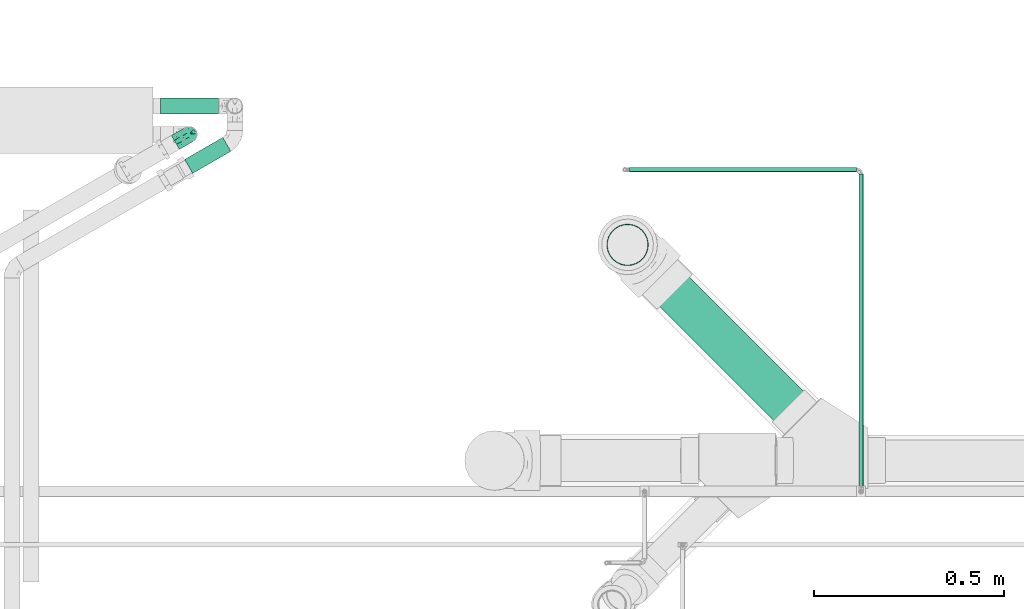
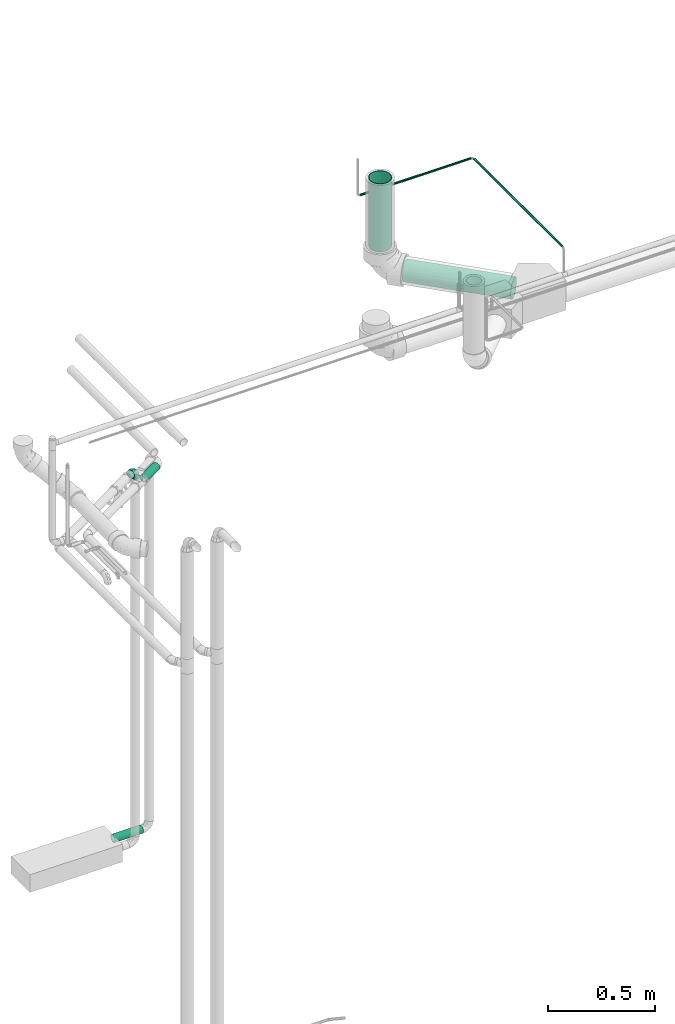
# One storey, part 43 of 108: 6 flow segments, 1 flow fitting.
"""IFC2X3 building model written with IfcOpenShell, lengths in millimetres."""

from ifc_helpers import new_model, entity, si_unit, converted_unit, derived_unit, direction, frame, origin_with_axes, origin_2d_with_axis, place, context, subcontext, project, spatial, hollow_circle, extrude, open_shell, surface_model, source, transform, mapped, type_object, element, save


model = new_model("IFC2X3")

# Units and contexts
model_context = context("Model", 3, precision=0.01, world=frame((0.0, 4.29681676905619e-09, 0.0)), true_north=direction((4.01073788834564e-13, 1.0)))
plan_context = context("Plan", 3, precision=0.01, world=frame((0.0, 4.29681676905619e-09, 0.0)), true_north=direction((4.01073788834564e-13, 1.0)))
body_context = subcontext(model_context, "Body", "Model", "MODEL_VIEW")
ifc_project = project(units=[converted_unit("PLANEANGLEUNIT", "DEGREE", entity("IfcPositiveLengthMeasure", 0.0174532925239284), si_unit("PLANEANGLEUNIT", "RADIAN"), dimensions=[0, 0, 0, 0, 0, 0, 0]), si_unit("AREAUNIT", "SQUARE_METRE"), si_unit("LENGTHUNIT", "METRE", prefix="MILLI"), si_unit("MASSUNIT", "GRAM", prefix="KILO"), si_unit("POWERUNIT", "WATT"), si_unit("PRESSUREUNIT", "PASCAL", prefix="KILO"), si_unit("FORCEUNIT", "NEWTON", prefix="KILO"), si_unit("ELECTRICVOLTAGEUNIT", "VOLT"), si_unit("ELECTRICCURRENTUNIT", "AMPERE"), si_unit("THERMODYNAMICTEMPERATUREUNIT", "DEGREE_CELSIUS"), si_unit("TIMEUNIT", "SECOND"), si_unit("VOLUMEUNIT", "CUBIC_METRE"), derived_unit("LINEARVELOCITYUNIT", [(si_unit("LENGTHUNIT", "METRE"), 1), (si_unit("TIMEUNIT", "SECOND"), -1)]), derived_unit("VOLUMETRICFLOWRATEUNIT", [(si_unit("VOLUMEUNIT", "CUBIC_METRE"), 1), (si_unit("TIMEUNIT", "SECOND"), -1)]), derived_unit("THERMALTRANSMITTANCEUNIT", [(si_unit("POWERUNIT", "WATT"), 1), (si_unit("THERMODYNAMICTEMPERATUREUNIT", "KELVIN"), -1), (si_unit("AREAUNIT", "SQUARE_METRE"), -1)]), derived_unit("SOUNDPRESSUREUNIT", [(si_unit("PRESSUREUNIT", "PASCAL"), 1)])], contexts=[model_context, plan_context])

# Site, building, storey
site_placement = place(None, frame((0.0, -4.29681676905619e-09, 0.0), z_axis=(0.0, 0.0, 1.0), x_axis=(1.0, 0.0, 0.0)))
site = spatial("IfcSite", under=ifc_project, at=site_placement, CompositionType="ELEMENT")
building_placement = place(site_placement, frame((0.0, 4.29681676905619e-09, 0.0), z_axis=(0.0, 0.0, 1.0), x_axis=(1.0, 0.0, 0.0)))
building = spatial("IfcBuilding", under=site, at=building_placement, Name="mc-building", CompositionType="ELEMENT")
storey_placement = place(building_placement, frame((0.0, 0.0, 210200.0), z_axis=(0.0, 0.0, 1.0), x_axis=(1.0, 0.0, 0.0)))
storey = spatial("IfcBuildingStorey", under=building, at=storey_placement, Name="Nivå F - 0,7 m", CompositionType="ELEMENT", Elevation=210200.0)

# Flow fitting
pipe_fitting_type = type_object("IfcPipeFittingType", Name="magi_pipe_fe_elbow_short_001", PredefinedType="BEND")
shared_shape_1 = source(origin_with_axes(), body_context, "Body", "SurfaceModel", [
    surface_model("IfcShellBasedSurfaceModel", [(-42.4, 10.6, -18.35974), (-42.4, 5.48696, -20.47763), (-42.4, 0.0, -21.2), (-42.4, 14.99066, -14.99066), (-42.4, 20.47763, -5.48696), (-42.4, 18.35974, -10.6), (-42.4, -14.99066, 14.99066), (-42.4, -21.2, 0.0), (-42.4, -10.6, -18.35974), (-42.4, -14.99066, -14.99066), (-42.4, -5.48696, -20.47763), (-42.4, -18.35974, -10.6), (-42.4, -20.47763, -5.48696), (-42.4, 10.6, 18.35974), (-42.4, 20.47763, 5.48696), (-42.4, 18.35974, 10.6), (-42.4, 14.99066, 14.99066), (-42.4, 5.48696, 20.47763), (-42.4, 0.0, 21.2), (-42.4, -20.47763, 5.48696), (-42.4, -18.35974, 10.6), (-42.4, -10.6, 18.35974), (-42.4, -5.48696, 20.47763), (-42.4, 21.2, 0.0), (0.0, 42.4, -21.2), (-5.48696, 42.4, -20.47763), (-10.6, 42.4, -18.35974), (-14.99066, 42.4, -14.99066), (-18.35974, 42.4, -10.6), (-20.47763, 42.4, -5.48696), (21.2, 42.4, 0.0), (5.48696, 42.4, -20.47763), (14.99066, 42.4, -14.99066), (10.6, 42.4, -18.35974), (18.35974, 42.4, -10.6), (20.47763, 42.4, -5.48696), (14.99066, 42.4, 14.99066), (-20.47763, 42.4, 5.48696), (-10.6, 42.4, 18.35974), (-14.99066, 42.4, 14.99066), (-18.35974, 42.4, 10.6), (-5.48696, 42.4, 20.47763), (0.0, 42.4, 21.2), (18.35974, 42.4, 10.6), (20.47763, 42.4, 5.48696), (5.48696, 42.4, 20.47763), (10.6, 42.4, 18.35974), (-21.2, 42.4, 0.0), (-31.10239, -16.47009, 11.90111), (-27.83957, -12.231, 15.79732), (-30.23067, -18.77937, 0.0), (-18.74048, -13.50096, 10.69998), (-28.17586, -18.50359, 6.61185), (18.50359, 28.17586, 6.61185), (14.95929, 16.60735, 5.43468), (16.35874, 18.06133, 0.0), (-20.72313, 33.83635, 9.21426), (-17.70981, 33.00599, 13.92769), (-31.16033, -8.01664, 19.07348), (-32.38682, -2.80842, 20.83743), (-29.68688, 3.24967, 21.16387), (-7.74467, -9.46536, 0.0), (-16.60735, -14.95929, 5.43468), (-18.06133, -16.35874, 0.0), (-16.37932, -5.14532, 17.61254), (-21.10659, -0.19025, 20.54817), (-1.82445, -3.58377, 9.55223), (-0.35533, 0.43745, 12.66367), (-7.20655, -5.07682, 13.06146), (-33.14056, 17.6728, 13.91288), (-7.36799, 20.84806, 21.16196), (-15.70315, 15.70315, 20.68489), (-12.62356, 9.26422, 21.0908), (-36.67879, 12.83836, 17.27427), (-7.91358, 36.5686, 19.85759), (-2.90555, 31.71221, 21.14793), (-33.84689, 20.71971, 9.21285), (-33.51649, 22.58113, 4.66115), (-26.3226, 26.3226, 7.92474), (-32.67995, 8.31454, 20.02643), (-5.53379, 14.19921, 20.81623), (-10.53385, 3.88918, 19.79653), (-2.16577, 11.45378, 19.48254), (-3.78693, 3.78693, 17.3328), (12.231, 27.83957, 15.79732), (13.50096, 18.74047, 10.69998), (16.47009, 31.10239, 11.90111), (-22.53806, 14.38475, 19.60876), (-23.29615, 9.08095, 20.82061), (2.80842, 32.38682, 20.83743), (8.01664, 31.16033, 19.07348), (5.14532, 16.37932, 17.61254), (18.77937, 30.23067, 0.0), (-20.80278, 5.19491, 21.19095), (-19.62579, 22.38752, 17.42006), (-29.19336, 14.39093, 17.85259), (-22.31569, 34.20044, 4.54807), (-26.56962, 27.80621, 3.73106), (9.67657, 17.17133, 14.49993), (-24.04026, 31.8, 0.0), (-9.16861, 28.72652, 20.19004), (-12.09761, 21.9456, 20.37969), (-15.36991, 27.40112, 17.818), (-16.88976, 20.52477, 19.2896), (-12.95169, 35.54896, 17.36222), (-17.17133, -9.67657, 14.49993), (-21.98655, 28.10245, 11.99898), (-22.34699, 23.67592, 15.01692), (-27.22822, 22.77969, 11.82161), (0.19025, 21.10658, 20.54817), (4.8276, 7.36347, 13.42842), (-10.06209, -9.46364, 9.95114), (1.25876, -2.7536, 5.73797), (6.43781, 3.77591, 7.40371), (6.57528, 2.20066, 3.17705), (10.91934, 8.84313, 5.00748), (10.64415, 10.99764, 8.89767), (-31.8, 24.04026, 0.0), (-5.71381, -8.43063, 6.15529), (2.57199, -2.57199, 0.0), (9.46536, 7.74467, 0.0), (-17.17133, -9.67657, -14.49993), (-27.83957, -12.231, -15.79732), (-16.37932, -5.14532, -17.61254), (-18.74048, -13.50096, -10.69998), (-33.00599, 17.70981, -13.92769), (-35.54896, 12.95169, -17.36222), (-34.20044, 22.31569, -4.54807), (-28.17586, -18.50359, -6.61185), (-26.3226, 26.3226, -7.92474), (-33.83635, 20.72313, -9.21426), (-16.60735, -14.95929, -5.43468), (-20.52477, 16.88976, -19.2896), (-21.9456, 12.0976, -20.37969), (-27.40112, 15.36991, -17.818), (-12.83836, 36.67879, -17.27427), (-17.6728, 33.14056, -13.91288), (8.01664, 31.16033, -19.07348), (5.14532, 16.37932, -17.61254), (0.19025, 21.10658, -20.54817), (-36.5686, 7.91358, -19.85759), (-31.10239, -16.47009, -11.90111), (-31.16033, -8.01664, -19.07348), (-14.38475, 22.53806, -19.60876), (-8.31454, 32.67995, -20.02643), (-9.08095, 23.29615, -20.82061), (-32.38682, -2.80842, -20.83743), (-20.84806, 7.36799, -21.16196), (-15.70315, 15.70314, -20.68489), (-9.26422, 12.62356, -21.0908), (-31.71221, 2.90555, -21.14793), (-22.58113, 33.51649, -4.66115), (-20.71971, 33.84689, -9.21285), (-28.72652, 9.16861, -20.19004), (-27.80621, 26.56962, -3.73106), (-5.19491, 20.80278, -21.19095), (-22.38752, 19.62579, -17.42006), (-14.39093, 29.19336, -17.85259), (2.80842, 32.38682, -20.83743), (-3.24967, 29.68688, -21.16387), (16.47009, 31.10239, -11.90111), (12.231, 27.83957, -15.79732), (6.57528, 2.20067, -3.17705), (10.91934, 8.84313, -5.00749), (-14.19921, 5.53379, -20.81623), (-3.88918, 10.53385, -19.79653), (-11.45378, 2.16577, -19.48254), (1.25876, -2.7536, -5.73797), (-5.71381, -8.43063, -6.15529), (-1.82445, -3.58377, -9.55223), (13.50096, 18.74048, -10.69998), (18.50359, 28.17586, -6.61185), (14.95929, 16.60735, -5.43468), (-28.10245, 21.98655, -11.99898), (9.67657, 17.17133, -14.49993), (10.64415, 10.99764, -8.89767), (4.8276, 7.36347, -13.42842), (-23.67592, 22.34699, -15.01692), (-22.77969, 27.22822, -11.82161), (-21.10658, -0.19025, -20.54817), (-3.78693, 3.78693, -17.3328), (-7.20655, -5.07682, -13.06146), (-10.06209, -9.46364, -9.95113), (-0.35533, 0.43745, -12.66367), (6.43781, 3.77591, -7.40371)], [open_shell([[[0, 1, 2]], [[3, 0, 2]], [[4, 5, 3]], [[2, 4, 3]], [[6, 2, 7]], [[8, 9, 10]], [[11, 10, 9]], [[12, 7, 11]], [[2, 10, 11]], [[11, 7, 2]], [[6, 4, 2]], [[13, 14, 4]], [[15, 14, 16]], [[4, 6, 13]], [[16, 14, 13]], [[17, 13, 18]], [[19, 20, 7]], [[7, 20, 6]], [[21, 22, 6]], [[18, 6, 22]], [[6, 18, 13]], [[23, 4, 14]], [[24, 25, 26]], [[24, 26, 27]], [[27, 28, 29]], [[27, 29, 24]], [[24, 29, 30]], [[31, 32, 33]], [[31, 24, 32]], [[34, 30, 35]], [[32, 24, 34]], [[24, 30, 34]], [[29, 36, 30]], [[29, 37, 38]], [[39, 37, 40]], [[36, 29, 38]], [[38, 37, 39]], [[41, 42, 38]], [[30, 43, 44]], [[36, 43, 30]], [[36, 45, 46]], [[45, 36, 42]], [[38, 42, 36]], [[37, 29, 47]], [[6, 48, 49]], [[19, 7, 50]], [[51, 48, 52]], [[53, 54, 55]], [[48, 6, 20]], [[19, 52, 20]], [[40, 56, 57]], [[49, 21, 6]], [[49, 58, 21]], [[18, 59, 60]], [[61, 62, 63]], [[58, 64, 65]], [[66, 67, 68]], [[15, 16, 69]], [[70, 71, 72]], [[13, 73, 16]], [[22, 59, 18]], [[41, 74, 75]], [[18, 60, 17]], [[15, 69, 76]], [[16, 73, 69]], [[23, 14, 77]], [[14, 15, 76]], [[77, 76, 78]], [[17, 79, 13]], [[80, 81, 82]], [[68, 83, 64]], [[84, 36, 46]], [[85, 86, 84]], [[87, 79, 88]], [[21, 58, 22]], [[42, 89, 45]], [[53, 44, 43]], [[42, 41, 75]], [[84, 90, 91]], [[43, 86, 53]], [[92, 44, 53]], [[86, 43, 36]], [[90, 46, 45]], [[53, 55, 92]], [[88, 93, 72]], [[54, 53, 85]], [[87, 94, 95]], [[78, 96, 97]], [[98, 84, 91]], [[99, 96, 47]], [[79, 17, 60]], [[96, 78, 56]], [[62, 52, 63]], [[57, 39, 40]], [[100, 70, 75]], [[101, 102, 103]], [[19, 50, 52]], [[104, 38, 39]], [[74, 41, 38]], [[57, 102, 104]], [[105, 64, 49]], [[90, 84, 46]], [[40, 37, 56]], [[56, 106, 57]], [[102, 57, 107]], [[95, 107, 69]], [[76, 108, 78]], [[100, 101, 70]], [[89, 75, 109]], [[64, 58, 49]], [[63, 52, 50]], [[59, 58, 65]], [[105, 49, 51]], [[64, 83, 81]], [[89, 90, 45]], [[30, 44, 92]], [[109, 82, 91]], [[109, 91, 90]], [[91, 83, 110]], [[111, 68, 105]], [[66, 68, 111]], [[62, 51, 52]], [[66, 112, 113]], [[114, 115, 113]], [[98, 85, 84]], [[52, 48, 20]], [[49, 48, 51]], [[84, 86, 36]], [[53, 86, 85]], [[88, 79, 60]], [[73, 79, 95]], [[96, 56, 37]], [[78, 108, 106]], [[87, 103, 94]], [[100, 74, 104]], [[108, 69, 107]], [[78, 97, 77]], [[88, 72, 71]], [[109, 75, 70]], [[81, 72, 65]], [[70, 72, 80]], [[75, 89, 42]], [[90, 89, 109]], [[58, 59, 22]], [[60, 59, 65]], [[67, 83, 68]], [[110, 113, 116]], [[88, 60, 93]], [[87, 88, 71]], [[103, 87, 71]], [[79, 87, 95]], [[101, 103, 71]], [[94, 103, 102]], [[47, 96, 37]], [[96, 99, 97]], [[99, 117, 97]], [[97, 117, 77]], [[23, 77, 117]], [[14, 76, 77]], [[60, 65, 93]], [[65, 72, 93]], [[70, 101, 71]], [[102, 101, 100]], [[69, 108, 76]], [[106, 108, 107]], [[57, 106, 107]], [[78, 106, 56]], [[57, 104, 39]], [[100, 104, 102]], [[102, 107, 94]], [[95, 94, 107]], [[64, 81, 65]], [[82, 81, 83]], [[91, 82, 83]], [[80, 82, 109]], [[70, 80, 109]], [[81, 80, 72]], [[79, 73, 13]], [[69, 73, 95]], [[104, 74, 38]], [[75, 74, 100]], [[62, 61, 118]], [[111, 62, 118]], [[113, 115, 116]], [[119, 118, 61]], [[111, 105, 51]], [[113, 112, 114]], [[120, 55, 54]], [[68, 64, 105]], [[91, 110, 98]], [[116, 98, 110]], [[62, 111, 51]], [[66, 111, 118]], [[112, 66, 118]], [[67, 113, 110]], [[118, 119, 112]], [[114, 112, 119]], [[119, 120, 114]], [[115, 120, 54]], [[120, 115, 114]], [[116, 54, 85]], [[54, 116, 115]], [[116, 85, 98]], [[113, 67, 66]], [[83, 67, 110]], [[121, 122, 123]], [[122, 121, 124]], [[5, 125, 3]], [[3, 126, 0]], [[117, 127, 23]], [[50, 12, 128]], [[127, 129, 130]], [[128, 131, 63]], [[132, 133, 134]], [[27, 135, 136]], [[137, 138, 139]], [[0, 140, 1]], [[128, 11, 141]], [[142, 8, 10]], [[128, 63, 50]], [[5, 4, 130]], [[11, 9, 141]], [[143, 144, 145]], [[146, 10, 2]], [[147, 148, 149]], [[11, 128, 12]], [[124, 141, 122]], [[150, 2, 1]], [[151, 152, 129]], [[125, 134, 126]], [[153, 147, 150]], [[127, 154, 129]], [[145, 155, 149]], [[47, 29, 151]], [[143, 156, 157]], [[152, 29, 28]], [[24, 158, 159]], [[122, 9, 8]], [[27, 26, 135]], [[144, 26, 25]], [[32, 160, 161]], [[24, 31, 158]], [[120, 162, 163]], [[130, 125, 5]], [[27, 136, 28]], [[1, 140, 150]], [[33, 161, 137]], [[142, 122, 8]], [[24, 159, 25]], [[164, 165, 166]], [[167, 168, 169]], [[34, 160, 32]], [[161, 33, 32]], [[170, 160, 171]], [[131, 128, 124]], [[30, 92, 35]], [[35, 92, 171]], [[172, 171, 55]], [[35, 171, 34]], [[144, 25, 159]], [[130, 173, 125]], [[174, 175, 176]], [[136, 152, 28]], [[33, 137, 31]], [[122, 142, 123]], [[134, 125, 177]], [[157, 177, 136]], [[152, 178, 129]], [[153, 133, 147]], [[146, 150, 179]], [[146, 142, 10]], [[7, 12, 50]], [[179, 166, 123]], [[179, 123, 142]], [[123, 180, 181]], [[138, 137, 161]], [[55, 171, 92]], [[158, 137, 139]], [[174, 161, 170]], [[138, 180, 165]], [[180, 138, 176]], [[124, 121, 182]], [[176, 183, 180]], [[61, 131, 168]], [[169, 168, 182]], [[172, 170, 171]], [[122, 141, 9]], [[128, 141, 124]], [[171, 160, 34]], [[161, 160, 170]], [[145, 144, 159]], [[135, 144, 157]], [[127, 130, 4]], [[129, 178, 173]], [[143, 132, 156]], [[153, 140, 126]], [[178, 136, 177]], [[129, 154, 151]], [[145, 149, 148]], [[179, 150, 147]], [[165, 149, 139]], [[147, 149, 164]], [[150, 146, 2]], [[142, 146, 179]], [[137, 158, 31]], [[159, 158, 139]], [[174, 138, 161]], [[184, 169, 183]], [[145, 159, 155]], [[143, 145, 148]], [[132, 143, 148]], [[144, 143, 157]], [[133, 132, 148]], [[156, 132, 134]], [[23, 127, 4]], [[127, 117, 154]], [[117, 99, 154]], [[154, 99, 151]], [[47, 151, 99]], [[29, 152, 151]], [[159, 139, 155]], [[139, 149, 155]], [[147, 133, 148]], [[134, 133, 153]], [[136, 178, 152]], [[173, 178, 177]], [[125, 173, 177]], [[129, 173, 130]], [[125, 126, 3]], [[153, 126, 134]], [[134, 177, 156]], [[157, 156, 177]], [[138, 165, 139]], [[166, 165, 180]], [[123, 166, 180]], [[164, 166, 179]], [[147, 164, 179]], [[165, 164, 149]], [[144, 135, 26]], [[136, 135, 157]], [[126, 140, 0]], [[150, 140, 153]], [[182, 131, 124]], [[168, 119, 61]], [[119, 167, 162]], [[63, 131, 61]], [[172, 163, 175]], [[172, 55, 120]], [[123, 181, 121]], [[182, 121, 181]], [[175, 174, 170]], [[176, 138, 174]], [[169, 182, 181]], [[131, 182, 168]], [[183, 169, 181]], [[167, 169, 184]], [[162, 167, 184]], [[119, 168, 167]], [[163, 162, 184]], [[120, 119, 162]], [[175, 163, 184]], [[120, 163, 172]], [[176, 175, 184]], [[172, 175, 170]], [[180, 183, 181]], [[184, 183, 176]]])]),
])
flow_fitting_placement = place(storey_placement, frame((325025.95013, 464389.95683, 2171.0), z_axis=(-0.500000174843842, 0.866025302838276, 0.0), x_axis=(0.866025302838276, 0.500000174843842, 0.0)))
element("IfcFlowFitting", 1, at=flow_fitting_placement, inside=storey, type_object=pipe_fitting_type, Name="magi_pipe_fe_elbow_short_001", context=body_context, shape_type="MappedRepresentation", body=[
    mapped(shared_shape_1, transform((0.0, 0.0, 0.0), scale=1.0)),
])

# Flow segments
pipe_segment_type_1 = type_object("IfcPipeSegmentType", Name="MA", PredefinedType="RIGIDSEGMENT")
shared_shape_2 = source(origin_with_axes(), body_context, "Body", "SweptSolid", [
    extrude(hollow_circle(Radius=55.0, WallThickness=2.0, at=origin_2d_with_axis()), frame((0.0, 0.0, 0.0), z_axis=(1.0, 0.0, 0.0), x_axis=(0.0, 1.0, 0.0)), (0.0, 0.0, 1.0), 387.2),
])
flow_segment_1_placement = place(storey_placement, frame((326179.08055, 464099.21054, 3221.17655999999), z_axis=(-0.70712428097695, 0.707089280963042, 0.0), x_axis=(0.0, 0.0, 1.0)))
element("IfcFlowSegment", 2, at=flow_segment_1_placement, inside=storey, type_object=pipe_segment_type_1, Name="MA", context=body_context, shape_type="MappedRepresentation", body=[
    mapped(shared_shape_2, transform((0.0, 0.0, 0.0), scale=1.0)),
])
shared_shape_3 = source(origin_with_axes(), body_context, "Body", "SweptSolid", [
    extrude(hollow_circle(Radius=55.0, WallThickness=2.0, at=origin_2d_with_axis()), frame((0.0, 0.0, 0.0), z_axis=(1.0, 0.0, 0.0), x_axis=(0.0, 1.0, 0.0)), (0.0, 0.0, 1.0), 525.1),
])
flow_segment_2_placement = place(storey_placement, frame((326263.79285, 464014.50348, 3100.28234999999), z_axis=(-0.707053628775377, -0.707147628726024, 0.00417099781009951), x_axis=(0.707089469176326, -0.707054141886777, -0.00994600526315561)))
element("IfcFlowSegment", 3, at=flow_segment_2_placement, inside=storey, type_object=pipe_segment_type_1, Name="MA", context=body_context, shape_type="MappedRepresentation", body=[
    mapped(shared_shape_3, transform((0.0, 0.0, 0.0), scale=1.0)),
])
pipe_segment_type_2 = type_object("IfcPipeSegmentType", Name="Kobberrør", PredefinedType="RIGIDSEGMENT")
shared_shape_4 = source(origin_with_axes(), body_context, "Body", "SweptSolid", [
    extrude(hollow_circle(Radius=6.0, WallThickness=2.0, at=origin_2d_with_axis()), frame((0.0, 0.0, 0.0), z_axis=(1.0, 0.0, 0.0), x_axis=(0.0, 1.0, 0.0)), (0.0, 0.0, 1.0), 597.7),
])
flow_segment_3_placement = place(storey_placement, frame((326184.02216, 464297.18577, 3384.96674999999), z_axis=(0.0, 0.0, 1.0), x_axis=(1.0, 0.0, 0.0)))
element("IfcFlowSegment", 4, at=flow_segment_3_placement, inside=storey, type_object=pipe_segment_type_2, Name="Kobberrør", context=body_context, shape_type="MappedRepresentation", body=[
    mapped(shared_shape_4, transform((0.0, 0.0, 0.0), scale=1.0)),
])
shared_shape_5 = source(origin_with_axes(), body_context, "Body", "SweptSolid", [
    extrude(hollow_circle(Radius=6.0, WallThickness=2.0, at=origin_2d_with_axis()), frame((0.0, 0.0, 0.0), z_axis=(1.0, 0.0, 0.0), x_axis=(0.0, 1.0, 0.0)), (0.0, 0.0, 1.0), 823.2),
])
flow_segment_4_placement = place(storey_placement, frame((326793.72018, 464285.18577, 3384.96674999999), z_axis=(0.0, 0.0, 1.0), x_axis=(0.0, -1.0, 0.0)))
element("IfcFlowSegment", 5, at=flow_segment_4_placement, inside=storey, type_object=pipe_segment_type_2, Name="Kobberrør", context=body_context, shape_type="MappedRepresentation", body=[
    mapped(shared_shape_5, transform((0.0, 0.0, 0.0), scale=1.0)),
])
pipe_segment_type_3 = type_object("IfcPipeSegmentType", Name="Stålrør normaltykke", PredefinedType="RIGIDSEGMENT")
shared_shape_6 = source(origin_with_axes(), body_context, "Body", "SweptSolid", [
    extrude(hollow_circle(Radius=21.2, WallThickness=2.0, at=origin_2d_with_axis()), frame((0.0, 0.0, 0.0), z_axis=(1.0, 0.0, 0.0), x_axis=(0.0, 1.0, 0.0)), (0.0, 0.0, 1.0), 153.1),
])
flow_segment_5_placement = place(storey_placement, frame((324950.0625, 464464.95683, 50.0), z_axis=(0.0, 0.0, 1.0), x_axis=(1.0, 0.0, 0.0)))
element("IfcFlowSegment", 6, at=flow_segment_5_placement, inside=storey, type_object=pipe_segment_type_3, Name="Stålrør normaltykke", context=body_context, shape_type="MappedRepresentation", body=[
    mapped(shared_shape_6, transform((0.0, 0.0, 0.0), scale=1.0)),
])
shared_shape_7 = source(origin_with_axes(), body_context, "Body", "SweptSolid", [
    extrude(hollow_circle(Radius=21.2, WallThickness=2.0, at=origin_2d_with_axis()), frame((0.0, 0.0, 0.0), z_axis=(1.0, 0.0, 0.0), x_axis=(0.0, 1.0, 0.0)), (0.0, 0.0, 1.0), 116.0),
])
flow_segment_6_placement = place(storey_placement, frame((325124.40126, 464363.6615, 2171.0), z_axis=(0.0, 0.0, 1.0), x_axis=(-0.866025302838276, -0.500000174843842, 0.0)))
element("IfcFlowSegment", 7, at=flow_segment_6_placement, inside=storey, type_object=pipe_segment_type_3, Name="Stålrør normaltykke", context=body_context, shape_type="MappedRepresentation", body=[
    mapped(shared_shape_7, transform((0.0, 0.0, 0.0), scale=1.0)),
])

save(model, "model.ifc")
